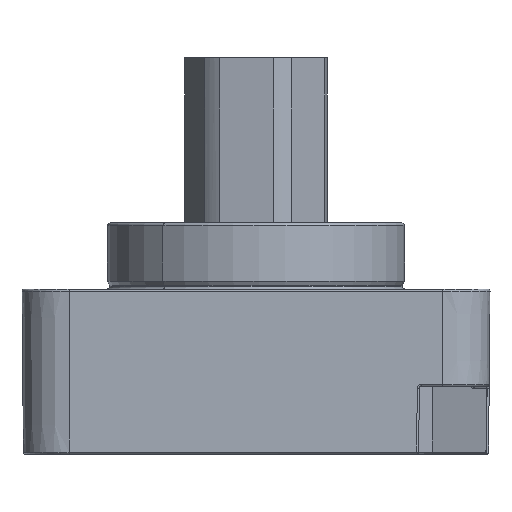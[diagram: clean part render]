
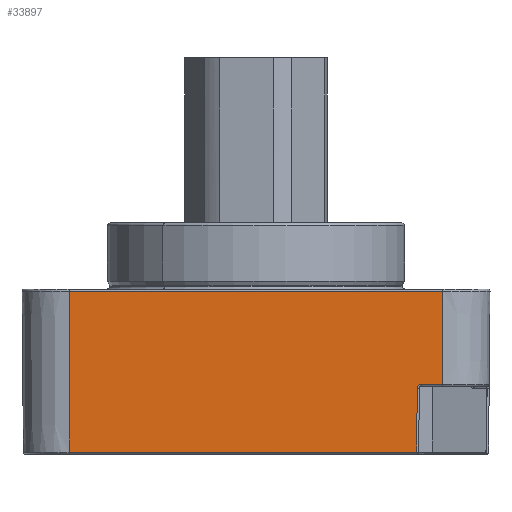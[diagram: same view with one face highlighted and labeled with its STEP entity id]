
A CAD part, left-side view. The second image highlights one B-rep face of the part: STEP entity #33897.
In plain terms, the highlighted planar face has unit normal (-1, 0, -0.009).
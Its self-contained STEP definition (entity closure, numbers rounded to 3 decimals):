
#47 = DIRECTION ( 'NONE',  ( -0.009, -0.011, 1. ) ) ;
#4563 = CARTESIAN_POINT ( 'NONE',  ( -22.498, -22.5, 7.736 ) ) ;
#6279 = VERTEX_POINT ( 'NONE', #57789 ) ;
#7368 = VECTOR ( 'NONE', #13457, 1000. ) ;
#8656 = LINE ( 'NONE', #48616, #38679 ) ;
#9412 = CARTESIAN_POINT ( 'NONE',  ( -22.42, -15.921, -1.214 ) ) ;
#9830 = EDGE_CURVE ( 'NONE', #6279, #23430, #20261, .T. ) ;
#11232 = DIRECTION ( 'NONE',  ( -0.009, 0., 1. ) ) ;
#11233 = ORIENTED_EDGE ( 'NONE', *, *, #18955, .T. ) ;
#13147 = LINE ( 'NONE', #41598, #7368 ) ;
#13457 = DIRECTION ( 'NONE',  ( -0.009, 0., 1. ) ) ;
#13487 = CARTESIAN_POINT ( 'NONE',  ( -22.363, -15.695, -7.739 ) ) ;
#13572 = EDGE_CURVE ( 'NONE', #21847, #56300, #53744, .T. ) ;
#13771 = CARTESIAN_POINT ( 'NONE',  ( -22.363, -15.437, -7.739 ) ) ;
#18955 = EDGE_CURVE ( 'NONE', #56300, #6279, #13147, .T. ) ;
#20261 = LINE ( 'NONE', #4563, #37852 ) ;
#20817 = AXIS2_PLACEMENT_3D ( 'NONE', #21360, #25275, #11232 ) ;
#20828 = ORIENTED_EDGE ( 'NONE', *, *, #9830, .T. ) ;
#21360 = CARTESIAN_POINT ( 'NONE',  ( -22.5, -22.5, 7.938 ) ) ;
#21847 = VERTEX_POINT ( 'NONE', #40155 ) ;
#23423 = CARTESIAN_POINT ( 'NONE',  ( -22.42, -15.68, -1.214 ) ) ;
#23430 = VERTEX_POINT ( 'NONE', #35683 ) ;
#24173 = ORIENTED_EDGE ( 'NONE', *, *, #13572, .T. ) ;
#25275 = DIRECTION ( 'NONE',  ( -1., 0., -0.009 ) ) ;
#26013 = VECTOR ( 'NONE', #47, 1000. ) ;
#32018 = VECTOR ( 'NONE', #51696, 1000. ) ;
#32045 = ORIENTED_EDGE ( 'NONE', *, *, #45015, .T. ) ;
#33897 = ADVANCED_FACE ( 'NONE', ( #42322 ), #58034, .T. ) ;
#35683 = CARTESIAN_POINT ( 'NONE',  ( -22.498, 17.961, 7.736 ) ) ;
#37095 = EDGE_CURVE ( 'NONE', #47723, #42344, #47200, .T. ) ;
#37534 = ORIENTED_EDGE ( 'NONE', *, *, #40935, .F. ) ;
#37852 = VECTOR ( 'NONE', #52978, 1000. ) ;
#38679 = VECTOR ( 'NONE', #44294, 1000. ) ;
#40155 = CARTESIAN_POINT ( 'NONE',  ( -22.42, -15.921, -1.214 ) ) ;
#40403 = EDGE_CURVE ( 'NONE', #48463, #23430, #8656, .T. ) ;
#40935 = EDGE_CURVE ( 'NONE', #21847, #42344, #50107, .T. ) ;
#41598 = CARTESIAN_POINT ( 'NONE',  ( -22.5, -17.961, 7.938 ) ) ;
#42322 = FACE_OUTER_BOUND ( 'NONE', #53359, .T. ) ;
#42344 = VERTEX_POINT ( 'NONE', #47096 ) ;
#44294 = DIRECTION ( 'NONE',  ( -0.009, 0., 1. ) ) ;
#45015 = EDGE_CURVE ( 'NONE', #48463, #47723, #49598, .T. ) ;
#45283 = CARTESIAN_POINT ( 'NONE',  ( -22.42, -17.961, -1.214 ) ) ;
#46130 = CARTESIAN_POINT ( 'NONE',  ( -22.42, -17.961, -1.214 ) ) ;
#46795 = CARTESIAN_POINT ( 'NONE',  ( -22.418, -15.509, -1.41 ) ) ;
#47096 = CARTESIAN_POINT ( 'NONE',  ( -22.417, -15.506, -1.611 ) ) ;
#47200 = LINE ( 'NONE', #46795, #26013 ) ;
#47574 = CARTESIAN_POINT ( 'NONE',  ( -22.417, -15.506, -1.611 ) ) ;
#47723 = VERTEX_POINT ( 'NONE', #13771 ) ;
#48463 = VERTEX_POINT ( 'NONE', #52085 ) ;
#48616 = CARTESIAN_POINT ( 'NONE',  ( -22.5, 17.961, 7.938 ) ) ;
#49598 = LINE ( 'NONE', #13487, #32018 ) ;
#50107 =( BOUNDED_CURVE ( )  B_SPLINE_CURVE ( 3, ( #9412, #23423, #56193, #47574 ),
 .UNSPECIFIED., .F., .F. ) 
 B_SPLINE_CURVE_WITH_KNOTS ( ( 4, 4 ),
 ( 1.537, 3.099 ),
 .UNSPECIFIED. ) 
 CURVE ( )  GEOMETRIC_REPRESENTATION_ITEM ( )  RATIONAL_B_SPLINE_CURVE ( ( 1., 0.807, 0.807, 1. ) ) 
 REPRESENTATION_ITEM ( '' )  );
#50323 = ORIENTED_EDGE ( 'NONE', *, *, #37095, .T. ) ;
#50635 = ORIENTED_EDGE ( 'NONE', *, *, #40403, .F. ) ;
#51696 = DIRECTION ( 'NONE',  ( 0., -1., 0. ) ) ;
#52085 = CARTESIAN_POINT ( 'NONE',  ( -22.363, 17.961, -7.739 ) ) ;
#52978 = DIRECTION ( 'NONE',  ( 0., 1., 0. ) ) ;
#53359 = EDGE_LOOP ( 'NONE', ( #37534, #24173, #11233, #20828, #50635, #32045, #50323 ) ) ;
#53744 = LINE ( 'NONE', #45283, #54446 ) ;
#54446 = VECTOR ( 'NONE', #55313, 1000. ) ;
#55313 = DIRECTION ( 'NONE',  ( 0., -1., 0. ) ) ;
#56193 = CARTESIAN_POINT ( 'NONE',  ( -22.419, -15.509, -1.378 ) ) ;
#56300 = VERTEX_POINT ( 'NONE', #46130 ) ;
#57789 = CARTESIAN_POINT ( 'NONE',  ( -22.498, -17.961, 7.736 ) ) ;
#58034 = PLANE ( 'NONE',  #20817 ) ;
